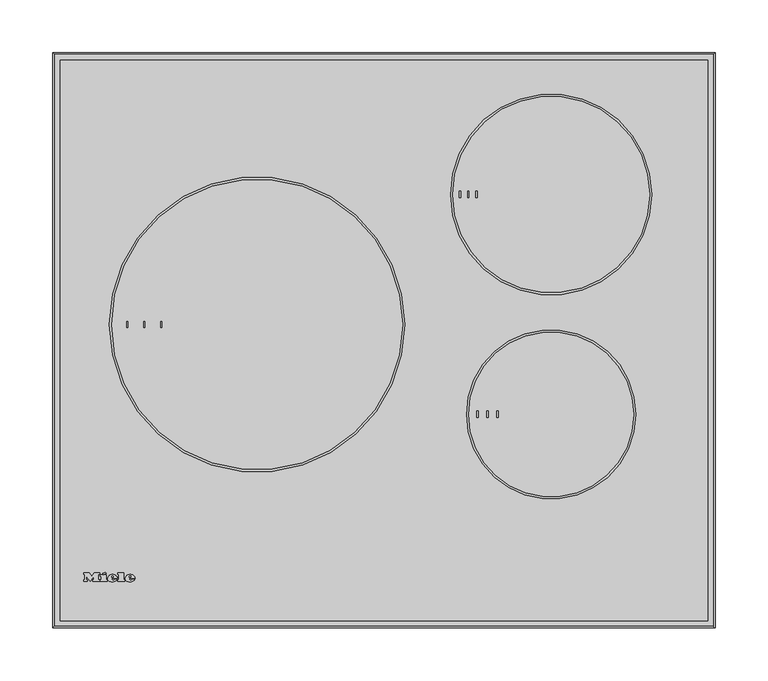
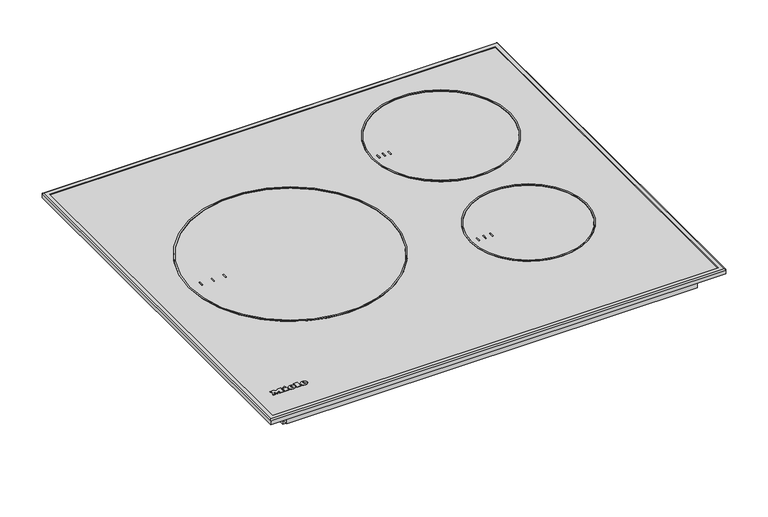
"""IFC4 building model written with IfcOpenShell, lengths in millimetres: proxy geometry, 12074190_USA_KM7720FR : 26772000_USA_12074190_KM7720FR."""

from ifc_helpers import new_model, si_unit, point, frame, frame_2d, origin, origin_with_axes, place, context, project, spatial, polyline, circle_curve, ellipse_curve, trimmed, segment, composite_curve, outline, extrude, source, transform, mapped, element, save
from ifc_brep_helpers import plane_surface, cylinder_surface, revolved_surface, extruded_surface, advanced_brep


def specialty_equipment_dd0addcc(model_context):
    return source(origin(), model_context, "Body", "SolidModel", [
        extrude(outline(polyline([(233.0, 507.967223), (233.0, 412.967223), (248.0, 412.967223), (248.0, 84.0082872), (-248.0, 84.0082872), (-248.0, 507.967223), (233.0, 507.967223)])), frame((0.0, 0.0, -73.0), z_axis=(0.0, 0.0, 1.0), x_axis=(1.0, 0.0, 0.0)), (0.0, 0.0, 1.0), 55.0),
        extrude(outline(polyline([(282.0, 529.5), (282.0, 14.5), (-282.0, 14.5), (-282.0, 529.5), (282.0, 529.5)])), frame((0.0, 0.0, -18.0), z_axis=(0.0, 0.0, 1.0), x_axis=(1.0, 0.0, 0.0)), (0.0, 0.0, 1.0), 18.0),
        extrude(outline(polyline([(310.0, 541.0003766), (310.0, 2.9996234), (-310.0, 2.9996234), (-310.0, 541.0003766), (310.0, 541.0003766)])), origin_with_axes(), (0.0, 0.0, 1.0), 5.5),
        advanced_brep(
        [(311.600005, 542.600005, 5.6145786), (311.600005, 542.600005, 0.0), (311.600005, 1.399995, 0.0), (311.600005, 1.399995, 5.6145786), (306.046384, 537.046384, 7.0), (306.046384, 537.046384, 5.6145786), (306.046384, 6.953616, 5.6145786), (306.046384, 6.953616, 7.0), (313.0, 544.0, 5.5), (311.5, 542.5, 7.0), (311.5, 1.5, 7.0), (313.0, 0.0, 5.5), (313.0, 544.0, 0.0), (313.0, 0.0, 0.0), (-311.600005, 1.399995, 0.0), (-311.600005, 1.399995, 5.6145786), (-306.046384, 6.953616, 5.6145786), (-306.046384, 6.953616, 7.0), (-311.5, 1.5, 7.0), (-313.0, 0.0, 5.5), (-313.0, 0.0, 0.0), (-311.600005, 542.600005, 0.0), (-311.600005, 542.600005, 5.6145786), (-306.046384, 537.046384, 5.6145786), (-306.046384, 537.046384, 7.0), (-311.5, 542.5, 7.0), (-313.0, 544.0, 5.5), (-313.0, 544.0, 0.0)],
        [
            (0, 1),
            (1, 2),
            (2, 3),
            (3, 0),
            (4, 5),
            (5, 6),
            (6, 7),
            (7, 4),
            (8, 9, ellipse_curve(frame((311.5, 542.5, 5.5), z_axis=(0.7071067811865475, -0.7071067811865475, 0.0), x_axis=(0.7071067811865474, 0.7071067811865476, 0.0)), 2.1213203, 1.5)),
            (9, 10),
            (10, 11, ellipse_curve(frame((311.5, 1.5, 5.5), z_axis=(0.7071067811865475, 0.7071067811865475, 0.0), x_axis=(-0.7071067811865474, 0.7071067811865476, 0.0)), 2.1213203, 1.5)),
            (11, 8),
            (12, 8),
            (11, 13),
            (13, 12),
            (2, 14),
            (14, 15),
            (15, 3),
            (6, 16),
            (16, 17),
            (17, 7),
            (10, 18),
            (18, 19, ellipse_curve(frame((-311.5, 1.5, 5.5), z_axis=(0.7071067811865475, -0.7071067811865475, 0.0), x_axis=(0.7071067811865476, 0.7071067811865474, 0.0)), 2.1213203, 1.5)),
            (19, 11),
            (19, 20),
            (20, 13),
            (14, 21),
            (21, 22),
            (22, 15),
            (16, 23),
            (23, 24),
            (24, 17),
            (18, 25),
            (25, 26, ellipse_curve(frame((-311.5, 542.5, 5.5), z_axis=(-0.7071067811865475, -0.7071067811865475, 0.0), x_axis=(0.7071067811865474, -0.7071067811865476, 0.0)), 2.1213203, 1.5)),
            (26, 19),
            (26, 27),
            (27, 20),
            (21, 1),
            (0, 22),
            (5, 23),
            (4, 24),
            (9, 25),
            (8, 26),
            (12, 27),
        ],
        [
            plane_surface(frame((311.600005, 542.600005, 0.0), z_axis=(-1.0, 0.0, 0.0), x_axis=(0.0, -1.0, 0.0))),
            plane_surface(frame((306.046384, 537.046384, 5.6145786), z_axis=(-1.0, 0.0, 0.0), x_axis=(0.0, -1.0, 0.0))),
            cylinder_surface(frame((311.5, 544.0, 5.5), z_axis=(0.0, 1.0, 0.0), x_axis=(1.0, 0.0, 0.0)), 1.5),
            plane_surface(frame((313.0, 544.0, 5.5), z_axis=(1.0, 0.0, 0.0), x_axis=(0.0, -1.0, 0.0))),
            plane_surface(frame((311.600005, 1.399995, 0.0), z_axis=(0.0, 1.0, 0.0), x_axis=(-1.0, 0.0, 0.0))),
            plane_surface(frame((306.046384, 6.953616, 5.6145786), z_axis=(0.0, 1.0, 0.0), x_axis=(-1.0, 0.0, 0.0))),
            cylinder_surface(frame((313.0, 1.5, 5.5), z_axis=(1.0, 0.0, 0.0), x_axis=(0.0, -1.0, 0.0)), 1.5),
            plane_surface(frame((313.0, 0.0, 5.5), z_axis=(0.0, -1.0, 0.0), x_axis=(-1.0, 0.0, 0.0))),
            plane_surface(frame((-311.600005, 1.399995, 0.0), z_axis=(1.0, 0.0, 0.0), x_axis=(0.0, 1.0, 0.0))),
            plane_surface(frame((-306.046384, 6.953616, 5.6145786), z_axis=(1.0, 0.0, 0.0), x_axis=(0.0, 1.0, 0.0))),
            cylinder_surface(frame((-311.5, 0.0, 5.5), z_axis=(0.0, -1.0, 0.0), x_axis=(-1.0, 0.0, 0.0)), 1.5),
            plane_surface(frame((-313.0, 0.0, 5.5), z_axis=(-1.0, 0.0, 0.0), x_axis=(0.0, 1.0, 0.0))),
            plane_surface(frame((-311.600005, 542.600005, 0.0), z_axis=(0.0, -1.0, 0.0), x_axis=(1.0, 0.0, 0.0))),
            plane_surface(frame((-311.600005, 542.600005, 5.6145786), z_axis=(0.0, 0.0, -1.0), x_axis=(1.0, 0.0, 0.0))),
            plane_surface(frame((-306.046384, 537.046384, 5.6145786), z_axis=(0.0, -1.0, 0.0), x_axis=(1.0, 0.0, 0.0))),
            plane_surface(frame((-306.046384, 537.046384, 7.0), z_axis=(0.0, 0.0, 1.0), x_axis=(1.0, 0.0, 0.0))),
            cylinder_surface(frame((-313.0, 542.5, 5.5), z_axis=(-1.0, 0.0, 0.0), x_axis=(0.0, 1.0, 0.0)), 1.5),
            plane_surface(frame((-313.0, 544.0, 5.5), z_axis=(0.0, 1.0, 0.0), x_axis=(1.0, 0.0, 0.0))),
            plane_surface(frame((-313.0, 544.0, 0.0), z_axis=(0.0, 0.0, -1.0), x_axis=(1.0, 0.0, 0.0))),
        ],
        [
            (0, [[1, 2, 3, 4]]),
            (1, [[5, 6, 7, 8]]),
            (2, [[9, 10, 11, 12]]),
            (3, [[13, -12, 14, 15]]),
            (4, [[-3, 16, 17, 18]]),
            (5, [[-7, 19, 20, 21]]),
            (6, [[-11, 22, 23, 24]]),
            (7, [[-14, -24, 25, 26]]),
            (8, [[-17, 27, 28, 29]]),
            (9, [[-20, 30, 31, 32]]),
            (10, [[-23, 33, 34, 35]]),
            (11, [[-25, -35, 36, 37]]),
            (12, [[-28, 38, -1, 39]]),
            (13, [[-18, -29, -39, -4], [40, -30, -19, -6]]),
            (14, [[-31, -40, -5, 41]]),
            (15, [[42, -33, -22, -10], [-21, -32, -41, -8]]),
            (16, [[-34, -42, -9, 43]]),
            (17, [[-36, -43, -13, 44]]),
            (18, [[-26, -37, -44, -15], [-38, -27, -16, -2]]),
        ],
    ),
        extrude(outline(polyline([(-242.2031812, 290.028796), (-242.2031812, 284.0137892), (-243.4061826, 284.0137892), (-243.4061826, 290.028796), (-242.2031812, 290.028796)])), frame((0.0, 0.0, 5.5), z_axis=(0.0, 0.0, 1.0), x_axis=(1.0, 0.0, 0.0)), (0.0, 0.0, 1.0), 1.0),
        extrude(outline(polyline([(-226.1081847, 290.0190381), (-226.1081847, 283.9823238), (-227.3320665, 283.9823238), (-227.3320665, 290.0190381), (-226.1081847, 290.0190381)])), frame((0.0, 0.0, 5.5), z_axis=(0.0, 0.0, 1.0), x_axis=(1.0, 0.0, 0.0)), (0.0, 0.0, 1.0), 1.0),
        extrude(outline(polyline([(-210.0157931, 289.9859602), (-210.0157931, 284.0319407), (-211.223136, 284.0319407), (-211.223136, 289.9859602), (-210.0157931, 289.9859602)])), frame((0.0, 0.0, 5.5), z_axis=(0.0, 0.0, 1.0), x_axis=(1.0, 0.0, 0.0)), (0.0, 0.0, 1.0), 1.0),
        extrude(outline(composite_curve([segment(trimmed(circle_curve(frame_2d((158.0, 202.0)), 80.0), [point((78.0, 202.0))], [point((238.0, 202.0))], False, "CARTESIAN"), True, "CONTINUOUS"), segment(trimmed(circle_curve(frame_2d((158.0, 202.0)), 80.0), [point((238.0, 202.0))], [point((78.0, 202.0))], False, "CARTESIAN"), True, "CONTINUOUS")], self_intersect=False), holes=[composite_curve([segment(trimmed(circle_curve(frame_2d((158.0, 202.0)), 78.0), [point((80.0, 202.0))], [point((236.0, 202.0))], True, "CARTESIAN"), True, "CONTINUOUS"), segment(trimmed(circle_curve(frame_2d((158.0, 202.0)), 78.0), [point((236.0, 202.0))], [point((80.0, 202.0))], True, "CARTESIAN"), True, "CONTINUOUS")], self_intersect=False)]), frame((0.0, 0.0, 5.5), z_axis=(0.0, 0.0, 1.0), x_axis=(1.0, 0.0, 0.0)), (0.0, 0.0, 1.0), 1.0),
        extrude(outline(polyline([(89.1360295, 205.0384605), (89.1360295, 198.9558232), (87.8735954, 198.9558232), (87.8735954, 205.0384605), (89.1360295, 205.0384605)])), frame((0.0, 0.0, 5.5), z_axis=(0.0, 0.0, 1.0), x_axis=(1.0, 0.0, 0.0)), (0.0, 0.0, 1.0), 1.0),
        extrude(outline(polyline([(98.5469023, 205.0384605), (98.5469023, 198.9558232), (97.3609793, 198.9558232), (97.3609793, 205.0384605), (98.5469023, 205.0384605)])), frame((0.0, 0.0, 5.5), z_axis=(0.0, 0.0, 1.0), x_axis=(1.0, 0.0, 0.0)), (0.0, 0.0, 1.0), 1.0),
        extrude(outline(polyline([(108.0342862, 205.0384605), (108.0342862, 198.9558232), (106.8101076, 198.9558232), (106.8101076, 205.0384605), (108.0342862, 205.0384605)])), frame((0.0, 0.0, 5.5), z_axis=(0.0, 0.0, 1.0), x_axis=(1.0, 0.0, 0.0)), (0.0, 0.0, 1.0), 1.0),
        extrude(outline(polyline([(-54.6543984, 252.7597012), (-44.6087674, 252.7597012), (-44.6087674, 245.5394039), (-45.8644713, 245.5394039), (-45.8644713, 251.5039974), (-48.846768, 251.5039974), (-48.846768, 245.8533299), (-50.1024718, 245.8533299), (-50.1024718, 251.5039974), (-53.3986945, 251.5039974), (-53.3986945, 245.382441), (-54.6543984, 245.382441), (-54.6543984, 252.7597012)])), frame((0.0, 455.5664955, 0.0), z_axis=(0.0, 1.0, 0.0), x_axis=(0.0, 0.0, 1.0)), (0.0, 0.0, 1.0), 1.0),
        extrude(outline(polyline([(-54.6543984, 243.4988851), (-44.6087674, 243.4988851), (-44.6087674, 242.2431813), (-53.3986945, 242.2431813), (-53.3986945, 237.2203658), (-54.6543984, 237.2203658), (-54.6543984, 243.4988851)])), frame((0.0, 455.5664955, 0.0), z_axis=(0.0, 1.0, 0.0), x_axis=(0.0, 0.0, 1.0)), (0.0, 0.0, 1.0), 1.0),
        advanced_brep(
        [(233.0, 423.9999912, -49.6543984), (233.0, 439.9999912, -49.6543984), (254.5665043, 423.9999912, -49.6543984), (238.5665043, 439.9999912, -49.6543984), (254.5665043, 455.5664955, -49.6543984), (238.5665043, 455.5664955, -49.6543984)],
        [
            (0, 1, circle_curve(frame((233.0, 431.9999912, -49.6543984), z_axis=(-1.0, 0.0, 0.0), x_axis=(0.0, 1.0, 0.0)), 8.0)),
            (1, 0, circle_curve(frame((233.0, 431.9999912, -49.6543984), z_axis=(-1.0, 0.0, 0.0), x_axis=(0.0, 1.0, 0.0)), 8.0)),
            (0, 2),
            (2, 3, ellipse_curve(frame((246.5665043, 431.9999912, -49.6543984), z_axis=(-0.7071067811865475, -0.7071067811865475, 0.0), x_axis=(-0.7071067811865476, 0.7071067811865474, 0.0)), 11.3137085, 8.0)),
            (3, 1),
            (3, 2, ellipse_curve(frame((246.5665043, 431.9999912, -49.6543984), z_axis=(-0.7071067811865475, -0.7071067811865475, 0.0), x_axis=(-0.7071067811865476, 0.7071067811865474, 0.0)), 11.3137085, 8.0)),
            (4, 5, circle_curve(frame((246.5665043, 455.5664955, -49.6543984), z_axis=(0.0, 1.0, 0.0), x_axis=(-1.0, 0.0, 0.0)), 8.0)),
            (5, 4, circle_curve(frame((246.5665043, 455.5664955, -49.6543984), z_axis=(0.0, 1.0, 0.0), x_axis=(-1.0, 0.0, 0.0)), 8.0)),
            (2, 4),
            (5, 3),
        ],
        [
            plane_surface(frame((233.0, 435.5664955, 50.5163179), z_axis=(-1.0, 0.0, 0.0), x_axis=(0.0, 0.0, 1.0))),
            cylinder_surface(frame((233.0, 431.9999912, -49.6543984), z_axis=(-1.0, 0.0, 0.0), x_axis=(0.0, 1.0, 0.0)), 8.0),
            plane_surface(frame((243.0, 455.5664955, 50.5163179), z_axis=(0.0, 1.0, 0.0), x_axis=(0.0, 0.0, 1.0))),
            cylinder_surface(frame((246.5665043, 435.5664955, -49.6543984), z_axis=(0.0, -1.0, 0.0), x_axis=(-1.0, 0.0, 0.0)), 8.0),
        ],
        [
            (0, [[1, 2]]),
            (1, [[-1, 3, 4, 5]]),
            (1, [[-2, -5, 6, -3]]),
            (2, [[7, 8]]),
            (3, [[-4, 9, -8, 10]]),
            (3, [[-6, -10, -7, -9]]),
        ],
    ),
        extrude(outline(composite_curve([segment(trimmed(circle_curve(frame_2d((-120.0, 287.0)), 139.5), [point((-259.5, 287.0))], [point((19.5, 287.0))], False, "CARTESIAN"), True, "CONTINUOUS"), segment(trimmed(circle_curve(frame_2d((-120.0, 287.0)), 139.5), [point((19.5, 287.0))], [point((-259.5, 287.0))], False, "CARTESIAN"), True, "CONTINUOUS")], self_intersect=False), holes=[composite_curve([segment(trimmed(circle_curve(frame_2d((-120.0, 287.0)), 137.5), [point((-257.5, 287.0))], [point((17.5, 287.0))], True, "CARTESIAN"), True, "CONTINUOUS"), segment(trimmed(circle_curve(frame_2d((-120.0, 287.0)), 137.5), [point((17.5, 287.0))], [point((-257.5, 287.0))], True, "CARTESIAN"), True, "CONTINUOUS")], self_intersect=False)]), frame((0.0, 0.0, 5.5), z_axis=(0.0, 0.0, 1.0), x_axis=(1.0, 0.0, 0.0)), (0.0, 0.0, 1.0), 1.0),
        extrude(outline(composite_curve([segment(trimmed(circle_curve(frame_2d((158.0, 410.0)), 95.0), [point((63.0, 410.0))], [point((253.0, 410.0))], False, "CARTESIAN"), True, "CONTINUOUS"), segment(trimmed(circle_curve(frame_2d((158.0, 410.0)), 95.0), [point((253.0, 410.0))], [point((63.0, 410.0))], False, "CARTESIAN"), True, "CONTINUOUS")], self_intersect=False), holes=[composite_curve([segment(trimmed(circle_curve(frame_2d((158.0, 410.0)), 93.0), [point((65.0, 410.0))], [point((251.0, 410.0))], True, "CARTESIAN"), True, "CONTINUOUS"), segment(trimmed(circle_curve(frame_2d((158.0, 410.0)), 93.0), [point((251.0, 410.0))], [point((65.0, 410.0))], True, "CARTESIAN"), True, "CONTINUOUS")], self_intersect=False)]), frame((0.0, 0.0, 5.5), z_axis=(0.0, 0.0, 1.0), x_axis=(1.0, 0.0, 0.0)), (0.0, 0.0, 1.0), 1.0),
        extrude(outline(polyline([(72.45432, 413.0004117), (72.45432, 407.0031891), (71.2637756, 407.0031891), (71.2637756, 413.0004117), (72.45432, 413.0004117)])), frame((0.0, 0.0, 5.5), z_axis=(0.0, 0.0, 1.0), x_axis=(1.0, 0.0, 0.0)), (0.0, 0.0, 1.0), 1.0),
        extrude(outline(polyline([(80.243635, 413.0015472), (80.243635, 407.0031891), (79.0293514, 407.0031891), (79.0293514, 413.0015472), (80.243635, 413.0015472)])), frame((0.0, 0.0, 5.5), z_axis=(0.0, 0.0, 1.0), x_axis=(1.0, 0.0, 0.0)), (0.0, 0.0, 1.0), 1.0),
        extrude(outline(polyline([(88.0010161, 413.0002689), (88.0010161, 406.9996722), (86.8008127, 406.9996722), (86.8008127, 413.0002689), (88.0010161, 413.0002689)])), frame((0.0, 0.0, 5.5), z_axis=(0.0, 0.0, 1.0), x_axis=(1.0, 0.0, 0.0)), (0.0, 0.0, 1.0), 1.0),
        advanced_brep(
        [(-240.64, 45.896, 6.5), (-240.64, 46.704, 6.5), (-235.288, 46.704, 6.5), (-244.6, 46.704, 6.5), (-242.4, 44.0, 6.5), (-235.424, 45.896, 6.5), (-237.84, 45.896, 6.5), (-239.744, 45.0, 6.5), (-240.64, 47.728, 6.5), (-240.64, 48.6, 6.5), (-239.272, 48.6, 6.5), (-239.272, 47.728, 6.5), (-240.64, 45.896, 5.5), (-239.744, 45.0, 5.5), (-237.84, 45.896, 5.5), (-235.424, 45.896, 5.5), (-242.4, 44.0, 5.5), (-244.6, 46.704, 5.5), (-235.288, 46.704, 5.5), (-240.64, 46.704, 5.5), (-240.64, 47.728, 5.5), (-239.272, 47.728, 5.5), (-239.272, 48.6, 5.5), (-240.64, 48.6, 5.5)],
        [
            (0, 1),
            (1, 2),
            (2, 3, ellipse_curve(frame((-239.944, 46.704, 6.5), z_axis=(0.0, 0.0, 1.0), x_axis=(-1.0, 0.0, 0.0)), 4.656, 3.848)),
            (3, 4, circle_curve(frame((-241.5039564, 46.976, 6.5), z_axis=(0.0, 0.0, 1.0), x_axis=(0.0, -1.0, 0.0)), 3.1079688)),
            (4, 5, circle_curve(frame((-240.0372064, 49.088, 6.5), z_axis=(0.0, 0.0, 1.0), x_axis=(0.0, -1.0, 0.0)), 5.6098607)),
            (5, 6),
            (6, 7, circle_curve(frame((-239.3529412, 46.64, 6.5), z_axis=(0.0, 0.0, -1.0), x_axis=(0.0, -1.0, 0.0)), 1.6859795)),
            (7, 0, circle_curve(frame((-239.744, 45.896, 6.5), z_axis=(0.0, 0.0, -1.0), x_axis=(0.0, -1.0, 0.0)), 0.896)),
            (8, 9),
            (9, 10, circle_curve(frame((-239.956, 48.6, 6.5), z_axis=(0.0, 0.0, -1.0), x_axis=(0.0, -1.0, 0.0)), 0.684)),
            (10, 11),
            (11, 8),
            (12, 13, circle_curve(frame((-239.744, 45.896, 5.5), z_axis=(0.0, 0.0, 1.0), x_axis=(0.0, -1.0, 0.0)), 0.896)),
            (13, 14, circle_curve(frame((-239.3529412, 46.64, 5.5), z_axis=(0.0, 0.0, 1.0), x_axis=(0.0, -1.0, 0.0)), 1.6859795)),
            (14, 15),
            (15, 16, circle_curve(frame((-240.0372064, 49.088, 5.5), z_axis=(0.0, 0.0, -1.0), x_axis=(0.0, -1.0, 0.0)), 5.6098607)),
            (16, 17, circle_curve(frame((-241.5039564, 46.976, 5.5), z_axis=(0.0, 0.0, -1.0), x_axis=(0.0, -1.0, 0.0)), 3.1079688)),
            (17, 18, ellipse_curve(frame((-239.944, 46.704, 5.5), z_axis=(0.0, 0.0, -1.0), x_axis=(-1.0, 0.0, 0.0)), 4.656, 3.848)),
            (18, 19),
            (19, 12),
            (20, 21),
            (21, 22),
            (22, 23, circle_curve(frame((-239.956, 48.6, 5.5), z_axis=(0.0, 0.0, 1.0), x_axis=(0.0, -1.0, 0.0)), 0.684)),
            (23, 20),
            (0, 12),
            (19, 1),
            (18, 2),
            (5, 15),
            (14, 6),
            (17, 3),
            (13, 7),
            (16, 4),
            (8, 20),
            (23, 9),
            (22, 10),
            (21, 11),
        ],
        [
            plane_surface(frame((-240.64, 46.704, 6.5), z_axis=(0.0, 0.0, 1.0), x_axis=(0.0, 1.0, 0.0))),
            plane_surface(frame((-240.64, 46.704, 5.5), z_axis=(0.0, 0.0, -1.0), x_axis=(0.0, -1.0, 0.0))),
            plane_surface(frame((-240.64, 45.896, 6.5), z_axis=(1.0, 0.0, 0.0), x_axis=(0.0, 0.0, -1.0))),
            plane_surface(frame((-240.64, 46.704, 6.5), z_axis=(0.0, -1.0, 0.0), x_axis=(0.0, 0.0, -1.0))),
            plane_surface(frame((-235.424, 45.896, 6.5), z_axis=(0.0, 1.0, 0.0), x_axis=(0.0, 0.0, -1.0))),
            extruded_surface(trimmed(ellipse_curve(frame((-239.944, 46.704, 4.5), z_axis=(0.0, 0.0, 1.0), x_axis=(-1.0, 0.0, 0.0)), 4.656, 3.848), [point((-235.288, 46.704, 4.5))], [point((-244.6, 46.704, 4.5))], True, "CARTESIAN"), (0.0, 0.0, 1.0), 1.0),
            revolved_surface(polyline([(-239.3529412, 44.9540205, 5.5), (-239.3529412, 44.9540205, 6.5)]), (-239.3529412, 46.64, 5.5), (0.0, 0.0, -1.0)),
            revolved_surface(polyline([(-239.744, 45.0, 5.5), (-239.744, 45.0, 6.5)]), (-239.744, 45.896, 5.5), (0.0, 0.0, -1.0)),
            cylinder_surface(frame((-241.5039564, 46.976, 5.5), z_axis=(0.0, 0.0, 1.0), x_axis=(0.0, -1.0, 0.0)), 3.1079688),
            cylinder_surface(frame((-240.0372064, 49.088, 5.5), z_axis=(0.0, 0.0, 1.0), x_axis=(0.0, -1.0, 0.0)), 5.6098607),
            plane_surface(frame((-240.64, 47.728, 6.5), z_axis=(1.0, 0.0, 0.0), x_axis=(0.0, 0.0, -1.0))),
            revolved_surface(polyline([(-239.956, 47.916000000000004, 5.5), (-239.956, 47.916000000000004, 6.5)]), (-239.956, 48.6, 5.5), (0.0, 0.0, -1.0)),
            plane_surface(frame((-239.272, 48.6, 6.5), z_axis=(-1.0, 0.0, 0.0), x_axis=(0.0, 0.0, -1.0))),
            plane_surface(frame((-239.272, 47.728, 6.5), z_axis=(0.0, 1.0, 0.0), x_axis=(0.0, 0.0, -1.0))),
        ],
        [
            (0, [[1, 2, 3, 4, 5, 6, 7, 8], [9, 10, 11, 12]]),
            (1, [[13, 14, 15, 16, 17, 18, 19, 20], [21, 22, 23, 24]]),
            (2, [[-1, 25, -20, 26]]),
            (3, [[-2, -26, -19, 27]]),
            (4, [[-6, 28, -15, 29]]),
            (5, [[-3, -27, -18, 30]]),
            (6, [[-7, -29, -14, 31]]),
            (7, [[-8, -31, -13, -25]]),
            (8, [[-4, -30, -17, 32]]),
            (9, [[-5, -32, -16, -28]]),
            (10, [[-9, 33, -24, 34]]),
            (11, [[-10, -34, -23, 35]]),
            (12, [[-11, -35, -22, 36]]),
            (13, [[-12, -36, -21, -33]]),
        ],
    ),
        advanced_brep(
        [(-257.336, 45.896, 6.5), (-257.336, 46.704, 6.5), (-251.984, 46.704, 6.5), (-261.296, 46.704, 6.5), (-259.096, 44.0, 6.5), (-252.12, 45.896, 6.5), (-254.536, 45.896, 6.5), (-256.44, 45.0, 6.5), (-257.336, 47.728, 6.5), (-257.336, 48.6, 6.5), (-255.968, 48.6, 6.5), (-255.968, 47.728, 6.5), (-257.336, 45.896, 5.5), (-256.44, 45.0, 5.5), (-254.536, 45.896, 5.5), (-252.12, 45.896, 5.5), (-259.096, 44.0, 5.5), (-261.296, 46.704, 5.5), (-251.984, 46.704, 5.5), (-257.336, 46.704, 5.5), (-257.336, 47.728, 5.5), (-255.968, 47.728, 5.5), (-255.968, 48.6, 5.5), (-257.336, 48.6, 5.5)],
        [
            (0, 1),
            (1, 2),
            (2, 3, ellipse_curve(frame((-256.64, 46.704, 6.5), z_axis=(0.0, 0.0, 1.0), x_axis=(-1.0, 0.0, 0.0)), 4.656, 3.848)),
            (3, 4, circle_curve(frame((-258.1999564, 46.976, 6.5), z_axis=(0.0, 0.0, 1.0), x_axis=(0.0, -1.0, 0.0)), 3.1079688)),
            (4, 5, circle_curve(frame((-256.7332064, 49.088, 6.5), z_axis=(0.0, 0.0, 1.0), x_axis=(0.0, -1.0, 0.0)), 5.6098607)),
            (5, 6),
            (6, 7, circle_curve(frame((-256.0489412, 46.64, 6.5), z_axis=(0.0, 0.0, -1.0), x_axis=(0.0, -1.0, 0.0)), 1.6859795)),
            (7, 0, circle_curve(frame((-256.44, 45.896, 6.5), z_axis=(0.0, 0.0, -1.0), x_axis=(0.0, -1.0, 0.0)), 0.896)),
            (8, 9),
            (9, 10, circle_curve(frame((-256.652, 48.6, 6.5), z_axis=(0.0, 0.0, -1.0), x_axis=(0.0, -1.0, 0.0)), 0.684)),
            (10, 11),
            (11, 8),
            (12, 13, circle_curve(frame((-256.44, 45.896, 5.5), z_axis=(0.0, 0.0, 1.0), x_axis=(0.0, -1.0, 0.0)), 0.896)),
            (13, 14, circle_curve(frame((-256.0489412, 46.64, 5.5), z_axis=(0.0, 0.0, 1.0), x_axis=(0.0, -1.0, 0.0)), 1.6859795)),
            (14, 15),
            (15, 16, circle_curve(frame((-256.7332064, 49.088, 5.5), z_axis=(0.0, 0.0, -1.0), x_axis=(0.0, -1.0, 0.0)), 5.6098607)),
            (16, 17, circle_curve(frame((-258.1999564, 46.976, 5.5), z_axis=(0.0, 0.0, -1.0), x_axis=(0.0, -1.0, 0.0)), 3.1079688)),
            (17, 18, ellipse_curve(frame((-256.64, 46.704, 5.5), z_axis=(0.0, 0.0, -1.0), x_axis=(-1.0, 0.0, 0.0)), 4.656, 3.848)),
            (18, 19),
            (19, 12),
            (20, 21),
            (21, 22),
            (22, 23, circle_curve(frame((-256.652, 48.6, 5.5), z_axis=(0.0, 0.0, 1.0), x_axis=(0.0, -1.0, 0.0)), 0.684)),
            (23, 20),
            (0, 12),
            (19, 1),
            (18, 2),
            (5, 15),
            (14, 6),
            (17, 3),
            (13, 7),
            (16, 4),
            (8, 20),
            (23, 9),
            (22, 10),
            (21, 11),
        ],
        [
            plane_surface(frame((-257.336, 46.704, 6.5), z_axis=(0.0, 0.0, 1.0), x_axis=(0.0, 1.0, 0.0))),
            plane_surface(frame((-257.336, 46.704, 5.5), z_axis=(0.0, 0.0, -1.0), x_axis=(0.0, -1.0, 0.0))),
            plane_surface(frame((-257.336, 45.896, 6.5), z_axis=(1.0, 0.0, 0.0), x_axis=(0.0, 0.0, -1.0))),
            plane_surface(frame((-257.336, 46.704, 6.5), z_axis=(0.0, -1.0, 0.0), x_axis=(0.0, 0.0, -1.0))),
            plane_surface(frame((-252.12, 45.896, 6.5), z_axis=(0.0, 1.0, 0.0), x_axis=(0.0, 0.0, -1.0))),
            extruded_surface(trimmed(ellipse_curve(frame((-256.64, 46.704, 4.5), z_axis=(0.0, 0.0, 1.0), x_axis=(-1.0, 0.0, 0.0)), 4.656, 3.848), [point((-251.984, 46.704, 4.5))], [point((-261.296, 46.704, 4.5))], True, "CARTESIAN"), (0.0, 0.0, 1.0), 1.0),
            revolved_surface(polyline([(-256.0489412, 44.9540205, 5.5), (-256.0489412, 44.9540205, 6.5)]), (-256.0489412, 46.64, 5.5), (0.0, 0.0, -1.0)),
            revolved_surface(polyline([(-256.44, 45.0, 5.5), (-256.44, 45.0, 6.5)]), (-256.44, 45.896, 5.5), (0.0, 0.0, -1.0)),
            cylinder_surface(frame((-258.1999564, 46.976, 5.5), z_axis=(0.0, 0.0, 1.0), x_axis=(0.0, -1.0, 0.0)), 3.1079688),
            cylinder_surface(frame((-256.7332064, 49.088, 5.5), z_axis=(0.0, 0.0, 1.0), x_axis=(0.0, -1.0, 0.0)), 5.6098607),
            plane_surface(frame((-257.336, 47.728, 6.5), z_axis=(1.0, 0.0, 0.0), x_axis=(0.0, 0.0, -1.0))),
            revolved_surface(polyline([(-256.652, 47.916000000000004, 5.5), (-256.652, 47.916000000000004, 6.5)]), (-256.652, 48.6, 5.5), (0.0, 0.0, -1.0)),
            plane_surface(frame((-255.968, 48.6, 6.5), z_axis=(-1.0, 0.0, 0.0), x_axis=(0.0, 0.0, -1.0))),
            plane_surface(frame((-255.968, 47.728, 6.5), z_axis=(0.0, 1.0, 0.0), x_axis=(0.0, 0.0, -1.0))),
        ],
        [
            (0, [[1, 2, 3, 4, 5, 6, 7, 8], [9, 10, 11, 12]]),
            (1, [[13, 14, 15, 16, 17, 18, 19, 20], [21, 22, 23, 24]]),
            (2, [[-1, 25, -20, 26]]),
            (3, [[-2, -26, -19, 27]]),
            (4, [[-6, 28, -15, 29]]),
            (5, [[-3, -27, -18, 30]]),
            (6, [[-7, -29, -14, 31]]),
            (7, [[-8, -31, -13, -25]]),
            (8, [[-4, -30, -17, 32]]),
            (9, [[-5, -32, -16, -28]]),
            (10, [[-9, 33, -24, 34]]),
            (11, [[-10, -34, -23, 35]]),
            (12, [[-11, -35, -22, 36]]),
            (13, [[-12, -36, -21, -33]]),
        ],
    ),
        extrude(outline(polyline([(-266.08, 51.528), (-263.36, 52.792), (-262.76, 51.496), (-265.472, 50.232), (-266.08, 51.528)])), frame((0.0, 0.0, 5.5), z_axis=(0.0, 0.0, 1.0), x_axis=(1.0, 0.0, 0.0)), (0.0, 0.0, 1.0), 1.0),
        extrude(outline(polyline([(-268.056, 50.056), (-262.672, 50.056), (-262.672, 45.344), (-261.744, 45.344), (-261.744, 44.0), (-268.056, 44.0), (-268.056, 45.344), (-267.104, 45.344), (-267.104, 48.624), (-268.056, 48.624), (-268.056, 50.056)])), frame((0.0, 0.0, 5.5), z_axis=(0.0, 0.0, 1.0), x_axis=(1.0, 0.0, 0.0)), (0.0, 0.0, 1.0), 1.0),
        extrude(outline(polyline([(-251.536, 50.696), (-251.536, 52.0), (-246.032, 52.0), (-246.032, 45.344), (-245.048, 45.344), (-245.048, 44.0), (-251.536, 44.0), (-251.536, 45.344), (-250.576, 45.344), (-250.576, 50.696), (-251.536, 50.696)])), frame((0.0, 0.0, 5.5), z_axis=(0.0, 0.0, 1.0), x_axis=(1.0, 0.0, 0.0)), (0.0, 0.0, 1.0), 1.0),
        extrude(outline(polyline([(-284.0, 50.696), (-284.0, 52.0), (-278.424, 52.0), (-276.08, 49.0), (-273.744, 52.0), (-268.872, 52.0), (-268.872, 50.696), (-269.888, 50.696), (-269.888, 45.344), (-268.872, 45.344), (-268.872, 44.0), (-275.256, 44.0), (-275.256, 45.344), (-274.272, 45.344), (-274.272, 48.8152223), (-277.864, 44.0), (-281.44, 48.7471247), (-281.44, 45.344), (-280.48, 45.344), (-280.48, 44.0), (-284.0, 44.0), (-284.0, 45.344), (-283.032, 45.344), (-283.032, 50.696), (-284.0, 50.696)])), frame((0.0, 0.0, 5.5), z_axis=(0.0, 0.0, 1.0), x_axis=(1.0, 0.0, 0.0)), (0.0, 0.0, 1.0), 1.0),
    ])


if __name__ == "__main__":
    model = new_model("IFC4")
    model_context = context("Model", 3, world=origin())
    ifc_project = project(units=[si_unit("LENGTHUNIT", "METRE", prefix="MILLI")], contexts=[model_context])
    site = spatial("IfcSite", under=ifc_project)
    building = spatial("IfcBuilding", under=site)
    placement = place(None, origin())
    specialty_equipment_shape = specialty_equipment_dd0addcc(model_context)
    element("IfcBuildingElementProxy", 1, Name="12074190_USA_KM7720FR : 26772000_USA_12074190_KM7720FR", ObjectType="12074190_USA_KM7720FR : 26772000_USA_12074190_KM7720FR", at=placement, inside=building, context=model_context, shape_type="MappedRepresentation", body=[
        mapped(specialty_equipment_shape, transform((0.0, 0.0, 0.0), x_axis=(1.0, 0.0, 0.0), y_axis=(0.0, 1.0, 0.0), z_axis=(0.0, 0.0, 1.0))),
    ])
    save(model, "model.ifc")
